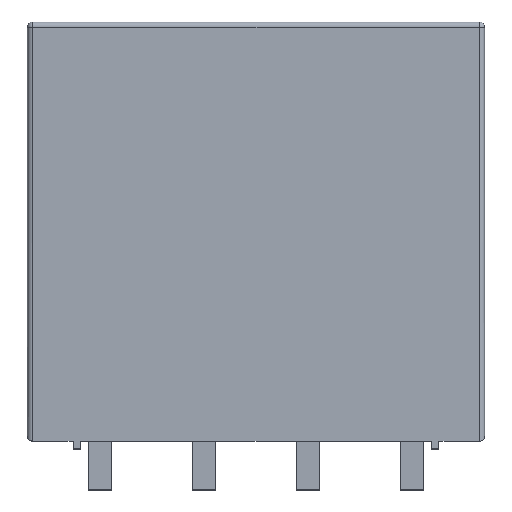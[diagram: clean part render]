
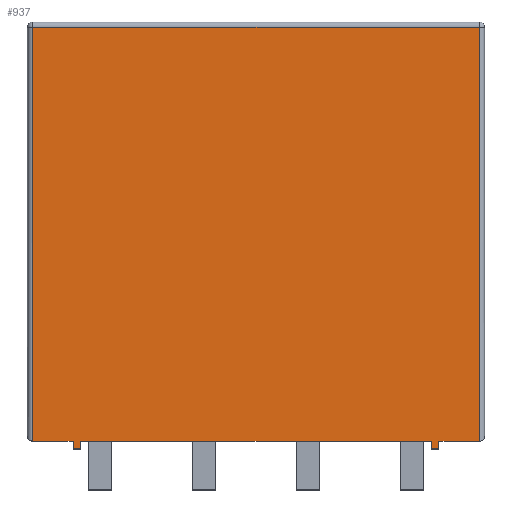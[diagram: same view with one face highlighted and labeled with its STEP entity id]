
A CAD part, top view. The second image highlights one B-rep face of the part: STEP entity #937.
In plain terms, the highlighted planar face has unit normal (0, 0, 1).
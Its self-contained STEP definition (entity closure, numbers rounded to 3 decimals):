
#742 = CARTESIAN_POINT ( 'NONE',  ( 10.9, 0.381, 1.78 ) ) ;
#743 = VERTEX_POINT ( 'NONE', #742 ) ;
#750 = CARTESIAN_POINT ( 'NONE',  ( 8.926, 0.381, 1.78 ) ) ;
#751 = VERTEX_POINT ( 'NONE', #750 ) ;
#752 = CARTESIAN_POINT ( 'NONE',  ( -11.15, 0.381, 1.78 ) ) ;
#753 = DIRECTION ( 'NONE',  ( 1., 0., 0. ) ) ;
#754 = VECTOR ( 'NONE', #753, 1000. ) ;
#755 = LINE ( 'NONE', #752, #754 ) ;
#756 = EDGE_CURVE ( 'NONE', #751, #743, #755, .T. ) ;
#772 = CARTESIAN_POINT ( 'NONE',  ( 8.545, 0.381, 1.78 ) ) ;
#773 = VERTEX_POINT ( 'NONE', #772 ) ;
#782 = CARTESIAN_POINT ( 'NONE',  ( -8.545, 0.381, 1.78 ) ) ;
#783 = VERTEX_POINT ( 'NONE', #782 ) ;
#784 = CARTESIAN_POINT ( 'NONE',  ( -11.15, 0.381, 1.78 ) ) ;
#785 = DIRECTION ( 'NONE',  ( 1., 0., 0. ) ) ;
#786 = VECTOR ( 'NONE', #785, 1000. ) ;
#787 = LINE ( 'NONE', #784, #786 ) ;
#788 = EDGE_CURVE ( 'NONE', #783, #773, #787, .T. ) ;
#852 = CARTESIAN_POINT ( 'NONE',  ( 10.9, 20.58, 1.78 ) ) ;
#853 = VERTEX_POINT ( 'NONE', #852 ) ;
#854 = CARTESIAN_POINT ( 'NONE',  ( -10.9, 20.58, 1.78 ) ) ;
#855 = VERTEX_POINT ( 'NONE', #854 ) ;
#856 = CARTESIAN_POINT ( 'NONE',  ( -11.15, 20.58, 1.78 ) ) ;
#857 = DIRECTION ( 'NONE',  ( -1., 0., 0. ) ) ;
#858 = VECTOR ( 'NONE', #857, 1000. ) ;
#859 = LINE ( 'NONE', #856, #858 ) ;
#860 = EDGE_CURVE ( 'NONE', #853, #855, #859, .T. ) ;
#861 = ORIENTED_EDGE ( 'NONE', *, *, #860, .T. ) ;
#862 = CARTESIAN_POINT ( 'NONE',  ( -10.9, 0.381, 1.78 ) ) ;
#863 = VERTEX_POINT ( 'NONE', #862 ) ;
#864 = CARTESIAN_POINT ( 'NONE',  ( -10.9, 20.83, 1.78 ) ) ;
#865 = DIRECTION ( 'NONE',  ( 0., -1., 0. ) ) ;
#866 = VECTOR ( 'NONE', #865, 1000. ) ;
#867 = LINE ( 'NONE', #864, #866 ) ;
#868 = EDGE_CURVE ( 'NONE', #855, #863, #867, .T. ) ;
#869 = ORIENTED_EDGE ( 'NONE', *, *, #868, .T. ) ;
#870 = CARTESIAN_POINT ( 'NONE',  ( -8.926, 0.381, 1.78 ) ) ;
#871 = VERTEX_POINT ( 'NONE', #870 ) ;
#872 = CARTESIAN_POINT ( 'NONE',  ( -11.15, 0.381, 1.78 ) ) ;
#873 = DIRECTION ( 'NONE',  ( 1., 0., 0. ) ) ;
#874 = VECTOR ( 'NONE', #873, 1000. ) ;
#875 = LINE ( 'NONE', #872, #874 ) ;
#876 = EDGE_CURVE ( 'NONE', #863, #871, #875, .T. ) ;
#877 = ORIENTED_EDGE ( 'NONE', *, *, #876, .T. ) ;
#878 = CARTESIAN_POINT ( 'NONE',  ( -8.926, 0., 1.78 ) ) ;
#879 = VERTEX_POINT ( 'NONE', #878 ) ;
#880 = CARTESIAN_POINT ( 'NONE',  ( -8.926, 0., 1.78 ) ) ;
#881 = DIRECTION ( 'NONE',  ( 0., 1., 0. ) ) ;
#882 = VECTOR ( 'NONE', #881, 1000. ) ;
#883 = LINE ( 'NONE', #880, #882 ) ;
#884 = EDGE_CURVE ( 'NONE', #879, #871, #883, .T. ) ;
#885 = ORIENTED_EDGE ( 'NONE', *, *, #884, .F. ) ;
#886 = CARTESIAN_POINT ( 'NONE',  ( -8.545, 0., 1.78 ) ) ;
#887 = VERTEX_POINT ( 'NONE', #886 ) ;
#888 = CARTESIAN_POINT ( 'NONE',  ( -8.926, 0., 1.78 ) ) ;
#889 = DIRECTION ( 'NONE',  ( 1., 0., 0. ) ) ;
#890 = VECTOR ( 'NONE', #889, 1000. ) ;
#891 = LINE ( 'NONE', #888, #890 ) ;
#892 = EDGE_CURVE ( 'NONE', #879, #887, #891, .T. ) ;
#893 = ORIENTED_EDGE ( 'NONE', *, *, #892, .T. ) ;
#894 = CARTESIAN_POINT ( 'NONE',  ( -8.545, 0., 1.78 ) ) ;
#895 = DIRECTION ( 'NONE',  ( 0., 1., 0. ) ) ;
#896 = VECTOR ( 'NONE', #895, 1000. ) ;
#897 = LINE ( 'NONE', #894, #896 ) ;
#898 = EDGE_CURVE ( 'NONE', #887, #783, #897, .T. ) ;
#899 = ORIENTED_EDGE ( 'NONE', *, *, #898, .T. ) ;
#900 = ORIENTED_EDGE ( 'NONE', *, *, #788, .T. ) ;
#901 = CARTESIAN_POINT ( 'NONE',  ( 8.545, 0., 1.78 ) ) ;
#902 = VERTEX_POINT ( 'NONE', #901 ) ;
#903 = CARTESIAN_POINT ( 'NONE',  ( 8.545, 0., 1.78 ) ) ;
#904 = DIRECTION ( 'NONE',  ( 0., 1., 0. ) ) ;
#905 = VECTOR ( 'NONE', #904, 1000. ) ;
#906 = LINE ( 'NONE', #903, #905 ) ;
#907 = EDGE_CURVE ( 'NONE', #902, #773, #906, .T. ) ;
#908 = ORIENTED_EDGE ( 'NONE', *, *, #907, .F. ) ;
#909 = CARTESIAN_POINT ( 'NONE',  ( 8.926, 0., 1.78 ) ) ;
#910 = VERTEX_POINT ( 'NONE', #909 ) ;
#911 = CARTESIAN_POINT ( 'NONE',  ( 8.545, 0., 1.78 ) ) ;
#912 = DIRECTION ( 'NONE',  ( -1., 0., 0. ) ) ;
#913 = VECTOR ( 'NONE', #912, 1000. ) ;
#914 = LINE ( 'NONE', #911, #913 ) ;
#915 = EDGE_CURVE ( 'NONE', #910, #902, #914, .T. ) ;
#916 = ORIENTED_EDGE ( 'NONE', *, *, #915, .F. ) ;
#917 = CARTESIAN_POINT ( 'NONE',  ( 8.926, 0., 1.78 ) ) ;
#918 = DIRECTION ( 'NONE',  ( 0., 1., 0. ) ) ;
#919 = VECTOR ( 'NONE', #918, 1000. ) ;
#920 = LINE ( 'NONE', #917, #919 ) ;
#921 = EDGE_CURVE ( 'NONE', #910, #751, #920, .T. ) ;
#922 = ORIENTED_EDGE ( 'NONE', *, *, #921, .T. ) ;
#923 = ORIENTED_EDGE ( 'NONE', *, *, #756, .T. ) ;
#924 = CARTESIAN_POINT ( 'NONE',  ( 10.9, 20.83, 1.78 ) ) ;
#925 = DIRECTION ( 'NONE',  ( 0., 1., 0. ) ) ;
#926 = VECTOR ( 'NONE', #925, 1000. ) ;
#927 = LINE ( 'NONE', #924, #926 ) ;
#928 = EDGE_CURVE ( 'NONE', #743, #853, #927, .T. ) ;
#929 = ORIENTED_EDGE ( 'NONE', *, *, #928, .T. ) ;
#930 = EDGE_LOOP ( 'NONE', ( #861, #869, #877, #885, #893, #899, #900, #908, #916, #922, #923, #929 ) ) ;
#931 = FACE_OUTER_BOUND ( 'NONE', #930, .T. ) ;
#932 = CARTESIAN_POINT ( 'NONE',  ( -11.15, 20.83, 1.78 ) ) ;
#933 = DIRECTION ( 'NONE',  ( 0., 0., -1. ) ) ;
#934 = DIRECTION ( 'NONE',  ( -1., 0., 0. ) ) ;
#935 = AXIS2_PLACEMENT_3D ( 'NONE', #932, #933, #934 ) ;
#936 = PLANE ( 'NONE', #935 ) ;
#937 = ADVANCED_FACE ( 'NONE', ( #931 ), #936, .F. ) ;
